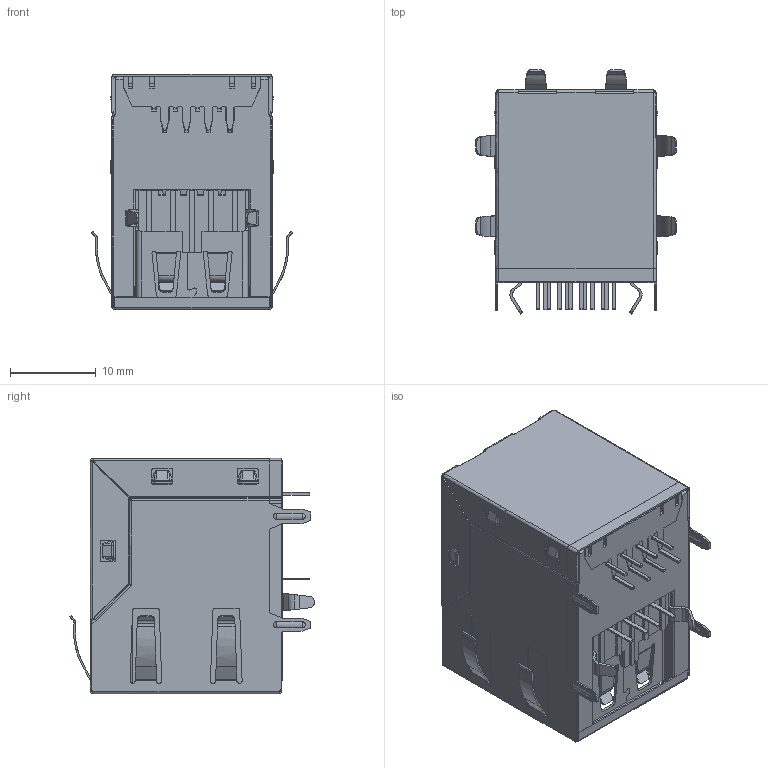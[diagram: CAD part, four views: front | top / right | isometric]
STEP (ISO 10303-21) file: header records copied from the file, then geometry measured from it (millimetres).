
FILE_DESCRIPTION (( 'STEP AP203' ), '1' );
FILE_NAME ('LPJE305CNL.STEP', '2025-08-14T09:37:19', ( '' ), ( '' ), 'SwSTEP 2.0', 'SolidWorks 2023', '' );
FILE_SCHEMA (( 'CONFIG_CONTROL_DESIGN' ));
Products named in the file (1): LPJE305CNL
Bounding box: 23.46 x 28.58 x 27.51 mm (x, y, z)
Surface area: 17425.3 mm2 (no closed solid volume)
Topology: 0 solids, 30 shells, 3497 faces, 9944 edges, 6401 vertices
Faces by surface type: bspline 3174, plane 278, cylinder 45
Entity records: 119006 total; most frequent: CARTESIAN_POINT 58001, ORIENTED_EDGE 19816, EDGE_CURVE 9920, B_SPLINE_CURVE_WITH_KNOTS 7878, VERTEX_POINT 6401, EDGE_LOOP 3617, ADVANCED_FACE 3497, FACE_OUTER_BOUND 3497
